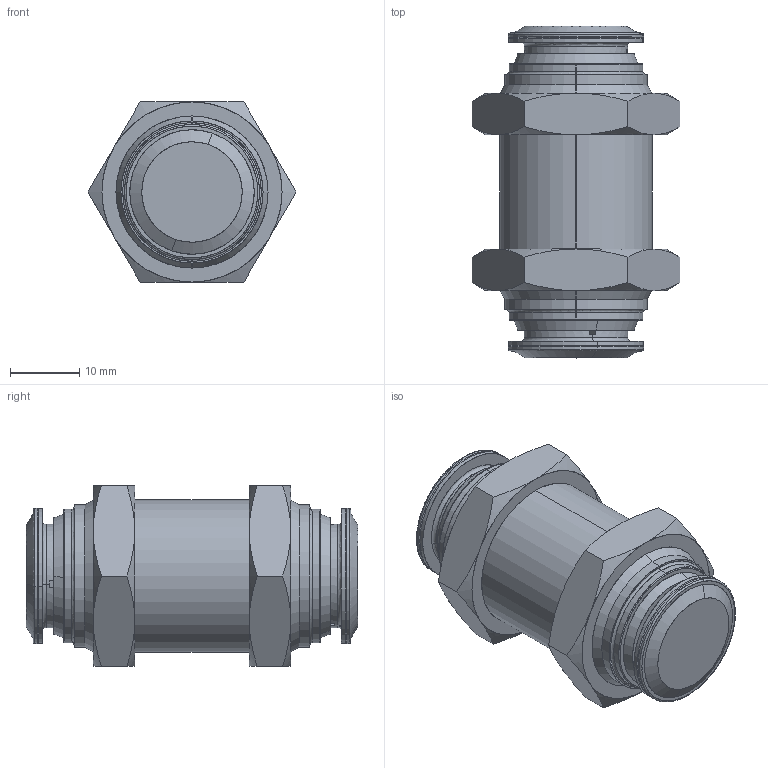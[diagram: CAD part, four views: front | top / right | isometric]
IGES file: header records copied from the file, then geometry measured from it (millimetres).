
Start section: SolidWorks IGES file using analytic representation for surfaces
Global section: file name: K:\Disegni Esecutivi\ALPHA TECHNOLOGIES\Assiemi-89000\89050\89050_iges\8905000006A.IGS; native system: SolidWorks 2011; preprocessor: SolidWorks 2011; author: cad05; date: 110215.085250; units: millimetre
Bounding box: 30.02 x 47.9 x 26 mm (x, y, z)
Surface area: 5193 mm2 (no closed solid volume)
Topology: 0 solids, 0 shells, 120 faces, 1752 edges, 1752 vertices
Faces by surface type: revolution 70, bspline 50
